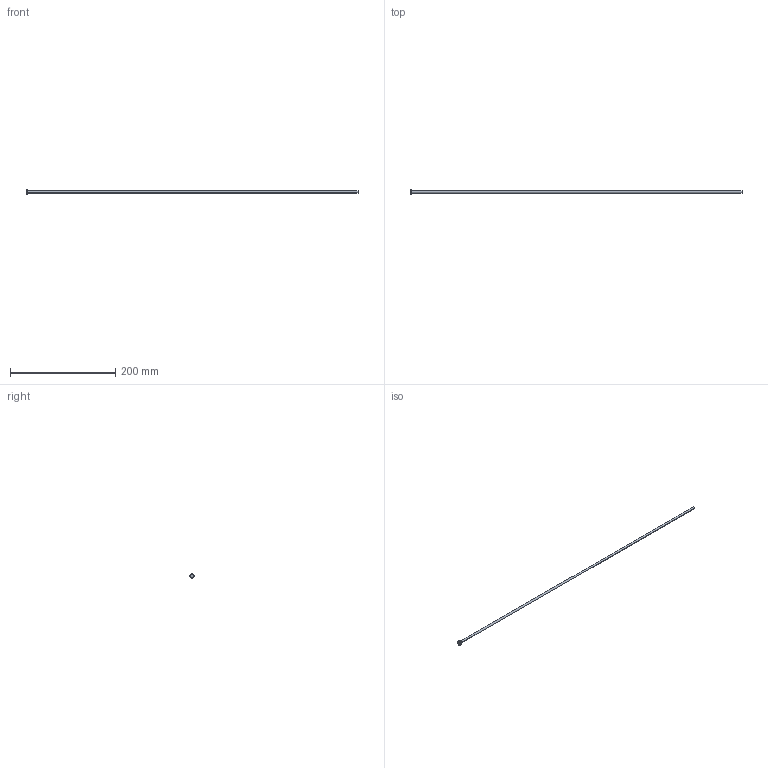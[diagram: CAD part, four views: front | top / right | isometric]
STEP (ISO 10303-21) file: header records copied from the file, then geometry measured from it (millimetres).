
FILE_DESCRIPTION (( 'STEP AP214' ), '1' );
FILE_NAME ('A-4x630.STEP', '2020-05-29T10:29:00', ( 'August' ), ( '' ), 'SwSTEP 2.0', 'SolidWorks 2018', '' );
FILE_SCHEMA (( 'AUTOMOTIVE_DESIGN' ));
Length unit declared in the file: millimetre
Products named in the file (1): A-4x630
Bounding box: 630 x 8 x 8 mm (x, y, z)
Volume: 8030.2 mm3; surface area: 8053.5 mm2
Topology: 1 solids, 1 shells, 9 faces, 16 edges, 10 vertices
Faces by surface type: cylinder 4, plane 3, torus 2
Entity records: 260 total; most frequent: DIRECTION 48, CARTESIAN_POINT 36, ORIENTED_EDGE 32, AXIS2_PLACEMENT_3D 22, EDGE_CURVE 16, CIRCLE 12, EDGE_LOOP 10, VERTEX_POINT 10
